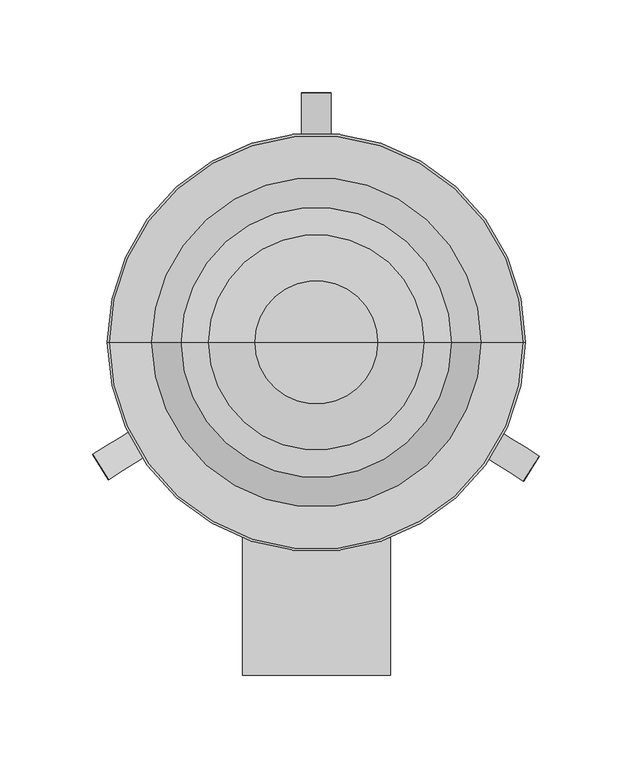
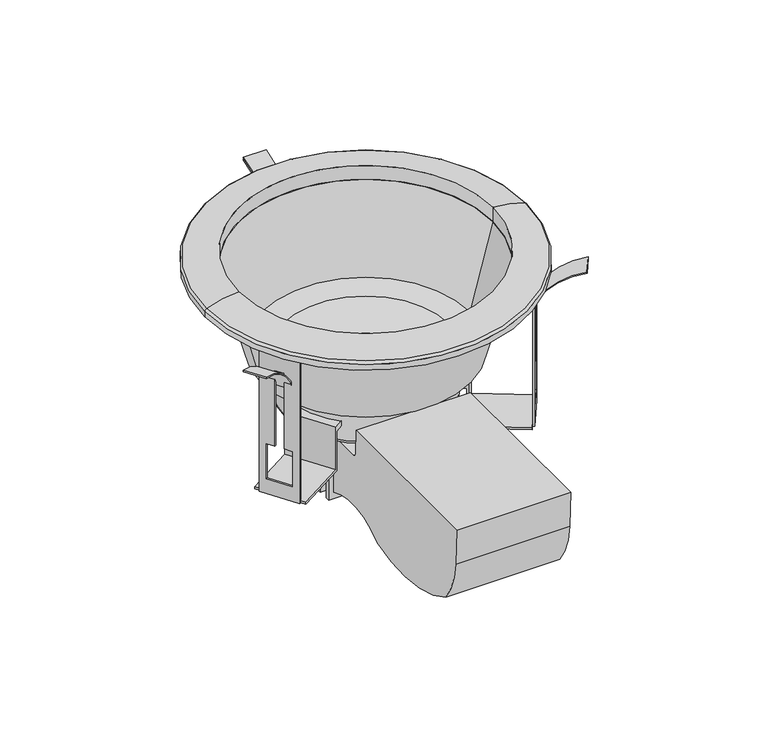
"""IFC4 building model written with IfcOpenShell, lengths in millimetres: light fixture geometry, Comtec LED : Comtec LED."""

from ifc_helpers import new_model, si_unit, point, frame, frame_2d, origin, place, context, project, spatial, polyline, circle_curve, ellipse_curve, trimmed, segment, composite_curve, outline, extrude, source, transform, mapped, element, save
from ifc_brep_helpers import plane_surface, cylinder_surface, revolved_surface, advanced_brep


def light_fixture_298a29b3(model_context):
    return source(origin(), model_context, "Body", "SolidModel", [
        extrude(outline(composite_curve([segment(trimmed(circle_curve(frame_2d((0.0, -5.0)), 5.0), [point((0.0, -10.0))], [point((0.0, 0.0))], False, "CARTESIAN"), True, "CONTINUOUS"), segment(trimmed(circle_curve(frame_2d((0.0, -5.0)), 5.0), [point((0.0, 0.0))], [point((0.0, -10.0))], False, "CARTESIAN"), True, "CONTINUOUS")], self_intersect=False)), frame((5.1438018, -74.0644061, -138.848699), z_axis=(0.0, -0.37460659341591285, 0.9271838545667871), x_axis=(0.0, -0.9271838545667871, -0.37460659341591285)), (0.0, 0.0, 1.0), 4.0851521),
        extrude(outline(polyline([(-40.0, 0.0), (0.0, 0.0), (0.0, -1.5), (-38.7064938, -1.5), (-38.7064938, -33.1009484), (-46.9554324, -33.1009484), (-46.9554324, -29.5168542), (-40.0, -29.5168542), (-40.0, 0.0)])), frame((79.1774025, -65.4227303, -111.2875682), z_axis=(0.5358760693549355, 0.8442966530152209, 0.0), x_axis=(0.8442966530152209, -0.5358760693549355, 0.0)), (0.0, 0.0, 1.0), 35.0),
        extrude(outline(composite_curve([segment(trimmed(circle_curve(frame_2d((0.0, 47.0)), 47.0), [point((16.0994137, 2.8433597))], [point((46.0994137, 37.8433597))], True, "CARTESIAN"), True, "CONTINUOUS"), segment(polyline([(46.0994137, 37.8433597), (47.0845011, 37.6476937)]), True, "CONTINUOUS"), segment(trimmed(circle_curve(frame_2d((-3.2793151, 49.8171151)), 51.8132107), [point((47.0845011, 37.6476937))], [point((16.4419544, 1.9038567))], False, "CARTESIAN"), True, "CONTINUOUS"), segment(polyline([(16.4419544, 1.9038567), (16.0994137, 2.8433597)]), True, "CONTINUOUS")], self_intersect=False)), frame((80.1789927, -54.8064716, -47.0326349), z_axis=(0.5358760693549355, 0.8442966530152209, 0.0), x_axis=(0.0, 0.0, 1.0)), (0.0, 0.0, 1.0), 16.0),
        extrude(outline(polyline([(0.0, 0.0), (0.0, -111.354347), (-27.9999999, -111.354347), (-27.9999999, 0.0), (0.0, 0.0)]), holes=[polyline([(-23.0, -11.0), (-23.0, -37.0), (-17.0, -37.0), (-17.0, -93.0), (-10.9999999, -93.0), (-10.9999999, -37.0), (-4.9999999, -37.0), (-4.9999999, -11.0), (-23.0, -11.0)])]), frame((97.0706546, -39.4704371, -111.2875682), z_axis=(-0.844296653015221, 0.5358760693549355, 0.0), x_axis=(0.5358760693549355, 0.844296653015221, 0.0)), (0.0, 0.0, 1.0), 1.2),
        extrude(outline(polyline([(40.0, 0.0), (40.0, -29.5168542), (46.9554324, -29.5168542), (46.9554324, -33.1009484), (38.7064938, -33.1009484), (38.7064938, -1.5), (0.0, -1.5), (0.0, 0.0), (40.0, 0.0)])), frame((-79.5698948, -64.8048004, -111.354347), z_axis=(-0.5299192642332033, 0.8480480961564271, 0.0), x_axis=(0.8480480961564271, 0.5299192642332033, 0.0)), (0.0, 0.0, 1.0), 35.0),
        extrude(outline(composite_curve([segment(polyline([(-16.0994137, 2.8433597), (-16.4419544, 1.9038568)]), True, "CONTINUOUS"), segment(trimmed(circle_curve(frame_2d((3.2793151, 49.8171151)), 51.8132107), [point((-16.4419544, 1.9038568))], [point((-47.0845011, 37.6476936))], False, "CARTESIAN"), True, "CONTINUOUS"), segment(polyline([(-47.0845011, 37.6476936), (-46.0994137, 37.8433596)]), True, "CONTINUOUS"), segment(trimmed(circle_curve(frame_2d((0.0, 47.0)), 47.0), [point((-46.0994137, 37.8433596))], [point((-16.0994137, 2.8433597))], True, "CARTESIAN"), True, "CONTINUOUS")], self_intersect=False)), frame((-80.4967258, -54.1817539, -47.0994137), z_axis=(-0.5299192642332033, 0.8480480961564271, 0.0), x_axis=(0.0, 0.0, -1.0)), (0.0, 0.0, 1.0), 16.0),
        extrude(outline(polyline([(0.0, 0.0), (0.0, -111.354347), (-28.0, -111.354347), (-28.0, 0.0), (0.0, 0.0)]), holes=[polyline([(-23.0, -11.0), (-23.0, -37.0), (-17.0, -37.0), (-17.0, -93.0), (-10.9999999, -93.0), (-10.9999999, -37.0), (-5.0, -37.0), (-5.0, -11.0), (-23.0, -11.0)])]), frame((-82.4422699, -62.4725352, -111.354347), z_axis=(0.8480480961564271, 0.5299192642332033, 0.0), x_axis=(0.5299192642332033, -0.8480480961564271, 0.0)), (0.0, 0.0, 1.0), 1.2),
        extrude(outline(polyline([(62.0, -112.854347), (62.0, -83.3374928), (55.0445676, -83.3374928), (55.0445676, -79.7533986), (63.2935062, -79.7533986), (63.2935062, -111.354347), (102.0, -111.354347), (102.0, -112.854347), (62.0, -112.854347)])), frame((-17.5, 0.0, 0.0), z_axis=(1.0, 0.0, 0.0), x_axis=(0.0, 1.0, 0.0)), (0.0, 0.0, 1.0), 35.0),
        extrude(outline(composite_curve([segment(polyline([(100.0, -32.5), (99.060497, -32.1574593)]), True, "CONTINUOUS"), segment(trimmed(circle_curve(frame_2d((146.9737554, -51.8787288)), 51.8132107), [point((99.060497, -32.1574593))], [point((134.8043339, -1.5149126))], False, "CARTESIAN"), True, "CONTINUOUS"), segment(polyline([(134.8043339, -1.5149126), (135.0, -2.5)]), True, "CONTINUOUS"), segment(trimmed(circle_curve(frame_2d((144.1566403, -48.5994137)), 47.0), [point((135.0, -2.5))], [point((100.0, -32.5))], True, "CARTESIAN"), True, "CONTINUOUS")], self_intersect=False)), frame((-8.0, 0.0, 0.0), z_axis=(1.0, 0.0, 0.0), x_axis=(0.0, 1.0, 0.0)), (0.0, 0.0, 1.0), 16.0),
        extrude(outline(polyline([(-112.854347, -14.0), (-112.854347, 14.0), (-1.5, 14.0), (-1.5, -14.0), (-112.854347, -14.0)]), holes=[polyline([(-101.854347, 9.0), (-101.854347, -9.0), (-75.854347, -9.0), (-75.854347, -3.0), (-19.854347, -3.0), (-19.854347, 3.0), (-75.854347, 3.0), (-75.854347, 9.0), (-101.854347, 9.0)])]), frame((0.0, 102.0, 0.0), z_axis=(0.0, 1.0, 0.0), x_axis=(0.0, 0.0, 1.0)), (0.0, 0.0, 1.0), 1.2),
        extrude(outline(polyline([(62.0, -111.354347), (62.0, -81.8374928), (55.0445676, -81.8374928), (55.0445676, -78.2533986), (63.2935062, -78.2533986), (63.2935062, -109.854347), (102.0, -109.854347), (102.0, -111.354347), (62.0, -111.354347)])), frame((-17.5, 0.0, 0.0), z_axis=(1.0, 0.0, 0.0), x_axis=(0.0, 1.0, 0.0)), (0.0, 0.0, 1.0), 35.0),
        extrude(outline(composite_curve([segment(polyline([(100.0, -31.0), (99.060497, -30.6574593)]), True, "CONTINUOUS"), segment(trimmed(circle_curve(frame_2d((146.9737554, -50.3787288)), 51.8132107), [point((99.060497, -30.6574593))], [point((134.8043339, -0.0149126))], False, "CARTESIAN"), True, "CONTINUOUS"), segment(polyline([(134.8043339, -0.0149126), (135.0, -1.0)]), True, "CONTINUOUS"), segment(trimmed(circle_curve(frame_2d((144.1566403, -47.0994137)), 47.0), [point((135.0, -1.0))], [point((100.0, -31.0))], True, "CARTESIAN"), True, "CONTINUOUS")], self_intersect=False)), frame((-8.0, 0.0, 0.0), z_axis=(1.0, 0.0, 0.0), x_axis=(0.0, 1.0, 0.0)), (0.0, 0.0, 1.0), 16.0),
        extrude(outline(polyline([(-111.354347, -14.0), (-111.354347, 14.0), (0.0, 14.0), (0.0, -14.0), (-111.354347, -14.0)]), holes=[polyline([(-100.354347, 9.0), (-100.354347, -9.0), (-74.354347, -9.0), (-74.354347, -3.0), (-18.354347, -3.0), (-18.354347, 3.0), (-74.354347, 3.0), (-74.354347, 9.0), (-100.354347, 9.0)])]), frame((0.0, 102.0, 0.0), z_axis=(0.0, 1.0, 0.0), x_axis=(0.0, 0.0, 1.0)), (0.0, 0.0, 1.0), 1.2),
        extrude(outline(polyline([(40.0, 19.0384684), (40.0, 15.7509368), (-40.0, 15.7509368), (-40.0, 19.0384684), (40.0, 19.0384684)])), frame((0.0, 0.0, -146.8386482), z_axis=(0.0, 0.0, 1.0), x_axis=(1.0, 0.0, 0.0)), (0.0, 0.0, 1.0), 51.4843013),
        extrude(outline(polyline([(40.0, 28.7596398), (40.0, 25.4721082), (-40.0, 25.4721082), (-40.0, 28.7596398), (40.0, 28.7596398)])), frame((0.0, 0.0, -146.8386482), z_axis=(0.0, 0.0, 1.0), x_axis=(1.0, 0.0, 0.0)), (0.0, 0.0, 1.0), 51.4843013),
        extrude(outline(polyline([(40.0, 9.0384684), (40.0, 5.7509368), (-40.0, 5.7509368), (-40.0, 9.0384684), (40.0, 9.0384684)])), frame((0.0, 0.0, -146.8386482), z_axis=(0.0, 0.0, 1.0), x_axis=(1.0, 0.0, 0.0)), (0.0, 0.0, 1.0), 51.4843013),
        extrude(outline(polyline([(40.0, -0.9615316), (40.0, -4.2490632), (-40.0, -4.2490632), (-40.0, -0.9615316), (40.0, -0.9615316)])), frame((0.0, 0.0, -146.8386482), z_axis=(0.0, 0.0, 1.0), x_axis=(1.0, 0.0, 0.0)), (0.0, 0.0, 1.0), 51.4843013),
        extrude(outline(polyline([(40.0, -10.9615316), (40.0, -14.2490632), (-40.0, -14.2490632), (-40.0, -10.9615316), (40.0, -10.9615316)])), frame((0.0, 0.0, -146.8386482), z_axis=(0.0, 0.0, 1.0), x_axis=(1.0, 0.0, 0.0)), (0.0, 0.0, 1.0), 51.4843013),
        extrude(outline(polyline([(40.0, -20.9615316), (40.0, -24.2490632), (-40.0, -24.2490632), (-40.0, -20.9615316), (40.0, -20.9615316)])), frame((0.0, 0.0, -146.8386482), z_axis=(0.0, 0.0, 1.0), x_axis=(1.0, 0.0, 0.0)), (0.0, 0.0, 1.0), 51.4843013),
        extrude(outline(composite_curve([segment(trimmed(circle_curve(frame_2d((-52.8820503, -181.5843221)), 49.6027163), [point((-30.1337454, -137.5054827))], [point((-83.3330628, -142.4286674))], True, "CARTESIAN"), True, "CONTINUOUS"), segment(trimmed(circle_curve(frame_2d((-114.1793145, -47.3233374)), 99.9825737), [point((-83.3330628, -142.4286674))], [point((-166.8151274, -132.3291386))], False, "CARTESIAN"), True, "CONTINUOUS"), segment(trimmed(circle_curve(frame_2d((-122.421054, -97.7152182)), 56.293492), [point((-166.8151274, -132.3291386))], [point((-178.6373977, -100.6613919))], False, "CARTESIAN"), True, "CONTINUOUS"), segment(polyline([(-178.6373977, -100.6613919), (-180.0, -74.6613919), (-57.9342962, -74.6613919), (-57.0643622, -92.3384524)]), True, "CONTINUOUS"), segment(trimmed(circle_curve(frame_2d((-53.8754494, -92.1815178)), 3.1927721), [point((-57.0643622, -92.3384524))], [point((-54.231748, -95.354347))], True, "CARTESIAN"), True, "CONTINUOUS"), segment(polyline([(-54.231748, -95.354347), (-30.5786709, -95.354347), (-30.1337454, -137.5054827)]), True, "CONTINUOUS")], self_intersect=False)), frame((-40.0, 0.0, 0.0), z_axis=(1.0, 0.0, 0.0), x_axis=(0.0, 1.0, 0.0)), (0.0, 0.0, 1.0), 80.0),
        advanced_brep(
        [(34.0875083, 0.0, -74.6613919), (-34.0875083, 0.0, -74.6613919), (0.0, 0.0, -74.6613919), (58.364397, 0.0, -65.825327), (-58.364397, 0.0, -65.825327), (57.0765187, 0.0, -92.2581804), (-57.0765187, 0.0, -92.2581804), (54.231748, 0.0, -95.354347), (-54.231748, 0.0, -95.354347), (0.0, 0.0, -95.354347)],
        [
            (0, 1, circle_curve(frame((0.0, 0.0, -74.6613919), z_axis=(0.0, 0.0, 1.0), x_axis=(-1.0, 0.0, 0.0)), 34.0875083)),
            (1, 2),
            (2, 0),
            (1, 0, circle_curve(frame((0.0, 0.0, -74.6613919), z_axis=(0.0, 0.0, 1.0), x_axis=(-1.0, 0.0, 0.0)), 34.0875083)),
            (3, 4, circle_curve(frame((0.0, 0.0, -65.825327), z_axis=(0.0, 0.0, 1.0), x_axis=(-1.0, 0.0, 0.0)), 58.364397)),
            (4, 1),
            (0, 3),
            (4, 3, circle_curve(frame((0.0, 0.0, -65.825327), z_axis=(0.0, 0.0, 1.0), x_axis=(-1.0, 0.0, 0.0)), 58.364397)),
            (5, 6, circle_curve(frame((0.0, 0.0, -92.2581804), z_axis=(0.0, 0.0, 1.0), x_axis=(-1.0, 0.0, 0.0)), 57.0765187)),
            (6, 4),
            (3, 5),
            (6, 5, circle_curve(frame((0.0, 0.0, -92.2581804), z_axis=(0.0, 0.0, 1.0), x_axis=(-1.0, 0.0, 0.0)), 57.0765187)),
            (7, 8, circle_curve(frame((0.0, 0.0, -95.354347), z_axis=(0.0, 0.0, 1.0), x_axis=(-1.0, 0.0, 0.0)), 54.231748)),
            (8, 6, circle_curve(frame((-53.7952436, 0.0, -92.098308), z_axis=(0.0, 1.0, 0.0), x_axis=(1.0, 0.0, 0.0)), 3.2851675)),
            (5, 7, circle_curve(frame((53.7952436, 0.0, -92.098308), z_axis=(0.0, 1.0, 0.0), x_axis=(-1.0, 0.0, 0.0)), 3.2851675)),
            (8, 7, circle_curve(frame((0.0, 0.0, -95.354347), z_axis=(0.0, 0.0, 1.0), x_axis=(-1.0, 0.0, 0.0)), 54.231748)),
            (9, 8),
            (7, 9),
        ],
        [
            plane_surface(frame((0.0, 0.0, -74.6613919), z_axis=(0.0, 0.0, 1.0), x_axis=(-1.0, 0.0, 0.0))),
            revolved_surface(polyline([(-34.0875083, 0.0, -74.6613919), (-58.364397, 0.0, -65.825327)]), (0.0, 0.0, -74.6613919), (0.0, 0.0, -1.0)),
            revolved_surface(polyline([(-58.364397, 0.0, -65.825327), (-57.0765187, 0.0, -92.2581804)]), (0.0, 0.0, -74.6613919), (0.0, 0.0, -1.0)),
            revolved_surface(trimmed(ellipse_curve(frame((-53.7952436, 0.0, -92.098308), z_axis=(0.0, -1.0, 0.0), x_axis=(1.0, 0.0, 0.0)), 3.2851675, 3.2851675), [point((-57.0765187, 0.0, -92.2581804))], [point((-54.231748, 0.0, -95.354347))], True, "CARTESIAN"), (0.0, 0.0, -74.6613919), (0.0, 0.0, -1.0)),
            plane_surface(frame((0.0, 0.0, -95.354347), z_axis=(0.0, 0.0, -1.0), x_axis=(-1.0, 0.0, 0.0))),
        ],
        [
            (0, [[1, 2, 3]]),
            (0, [[4, -3, -2]]),
            (1, [[5, 6, -1, 7]]),
            (1, [[8, -7, -4, -6]]),
            (2, [[9, 10, -5, 11]]),
            (2, [[12, -11, -8, -10]]),
            (3, [[13, 14, -9, 15]]),
            (3, [[16, -15, -12, -14]]),
            (4, [[17, -13, 18]]),
            (4, [[-18, -16, -17]]),
        ],
    ),
        advanced_brep(
        [(90.1862357, 0.0, 0.0), (-90.1862357, 0.0, 0.0), (-89.200061, 0.0, 0.0), (89.200061, 0.0, 0.0), (73.7547954, 0.0, -62.2040568), (-73.7547954, 0.0, -62.2040568), (58.364397, 0.0, -65.825327), (-58.364397, 0.0, -65.825327), (34.0875083, 0.0, -74.6613919), (-34.0875083, 0.0, -74.6613919), (31.9600186, 0.0, -74.6613919), (-31.9600186, 0.0, -74.6613919), (58.1353576, 0.0, -64.8519099), (-58.1353576, 0.0, -64.8519099), (73.0, 0.0, -61.354347), (-73.0, 0.0, -61.354347)],
        [
            (0, 1, circle_curve(frame((0.0, 0.0, 0.0), z_axis=(0.0, 0.0, 1.0), x_axis=(-1.0, 0.0, 0.0)), 90.1862357)),
            (1, 2),
            (2, 3, circle_curve(frame((0.0, 0.0, 0.0), z_axis=(0.0, 0.0, -1.0), x_axis=(-1.0, 0.0, 0.0)), 89.200061)),
            (3, 0),
            (1, 0, circle_curve(frame((0.0, 0.0, 0.0), z_axis=(0.0, 0.0, 1.0), x_axis=(-1.0, 0.0, 0.0)), 90.1862357)),
            (3, 2, circle_curve(frame((0.0, 0.0, 0.0), z_axis=(0.0, 0.0, -1.0), x_axis=(-1.0, 0.0, 0.0)), 89.200061)),
            (4, 5, circle_curve(frame((0.0, 0.0, -62.2040568), z_axis=(0.0, 0.0, 1.0), x_axis=(-1.0, 0.0, 0.0)), 73.7547954)),
            (5, 1, circle_curve(frame((255.3937078, 0.0, 58.0140256), z_axis=(0.0, 1.0, 0.0), x_axis=(1.0, 0.0, 0.0)), 350.4156454)),
            (0, 4, circle_curve(frame((-255.3937078, 0.0, 58.0140256), z_axis=(0.0, 1.0, 0.0), x_axis=(-1.0, 0.0, 0.0)), 350.4156454)),
            (5, 4, circle_curve(frame((0.0, 0.0, -62.2040568), z_axis=(0.0, 0.0, 1.0), x_axis=(-1.0, 0.0, 0.0)), 73.7547954)),
            (6, 7, circle_curve(frame((0.0, 0.0, -65.825327), z_axis=(0.0, 0.0, 1.0), x_axis=(-1.0, 0.0, 0.0)), 58.364397)),
            (7, 5, circle_curve(frame((103.7236835, 0.0, 657.5642469), z_axis=(0.0, 1.0, 0.0), x_axis=(1.0, 0.0, 0.0)), 741.3265282)),
            (4, 6, circle_curve(frame((-103.7236835, 0.0, 657.5642469), z_axis=(0.0, 1.0, 0.0), x_axis=(-1.0, 0.0, 0.0)), 741.3265282)),
            (7, 6, circle_curve(frame((0.0, 0.0, -65.825327), z_axis=(0.0, 0.0, 1.0), x_axis=(-1.0, 0.0, 0.0)), 58.364397)),
            (8, 9, circle_curve(frame((0.0, 0.0, -74.6613919), z_axis=(0.0, 0.0, 1.0), x_axis=(-1.0, 0.0, 0.0)), 34.0875083)),
            (9, 7),
            (6, 8),
            (9, 8, circle_curve(frame((0.0, 0.0, -74.6613919), z_axis=(0.0, 0.0, 1.0), x_axis=(-1.0, 0.0, 0.0)), 34.0875083)),
            (10, 11, circle_curve(frame((0.0, 0.0, -74.6613919), z_axis=(0.0, 0.0, 1.0), x_axis=(-1.0, 0.0, 0.0)), 31.9600186)),
            (11, 9),
            (8, 10),
            (11, 10, circle_curve(frame((0.0, 0.0, -74.6613919), z_axis=(0.0, 0.0, 1.0), x_axis=(-1.0, 0.0, 0.0)), 31.9600186)),
            (12, 13, circle_curve(frame((0.0, 0.0, -64.8519099), z_axis=(0.0, 0.0, 1.0), x_axis=(-1.0, 0.0, 0.0)), 58.1353576)),
            (13, 11),
            (10, 12),
            (13, 12, circle_curve(frame((0.0, 0.0, -64.8519099), z_axis=(0.0, 0.0, 1.0), x_axis=(-1.0, 0.0, 0.0)), 58.1353576)),
            (14, 15, circle_curve(frame((0.0, 0.0, -61.354347), z_axis=(0.0, 0.0, 1.0), x_axis=(-1.0, 0.0, 0.0)), 73.0)),
            (15, 13, circle_curve(frame((121.4027012, 0.0, 731.5209868), z_axis=(0.0, -1.0, 0.0), x_axis=(1.0, 0.0, 0.0)), 816.360034)),
            (12, 14, circle_curve(frame((-121.4027012, 0.0, 731.5209868), z_axis=(0.0, -1.0, 0.0), x_axis=(-1.0, 0.0, 0.0)), 816.360034)),
            (15, 14, circle_curve(frame((0.0, 0.0, -61.354347), z_axis=(0.0, 0.0, 1.0), x_axis=(-1.0, 0.0, 0.0)), 73.0)),
            (2, 15, circle_curve(frame((257.6495101, 0.0, 58.7665822), z_axis=(0.0, -1.0, 0.0), x_axis=(1.0, 0.0, 0.0)), 351.792746)),
            (14, 3, circle_curve(frame((-257.6495101, 0.0, 58.7665822), z_axis=(0.0, -1.0, 0.0), x_axis=(-1.0, 0.0, 0.0)), 351.792746)),
        ],
        [
            plane_surface(frame((0.0, 0.0, 0.0), z_axis=(0.0, 0.0, 1.0), x_axis=(-1.0, 0.0, 0.0))),
            revolved_surface(trimmed(ellipse_curve(frame((255.3937078, 0.0, 58.0140256), z_axis=(0.0, -1.0, 0.0), x_axis=(1.0, 0.0, 0.0)), 350.4156454, 350.4156454), [point((-90.1862357, 0.0, 0.0))], [point((-73.7547954, 0.0, -62.2040568))], True, "CARTESIAN"), (0.0, 0.0, -70.2433595), (0.0, 0.0, -1.0)),
            revolved_surface(trimmed(ellipse_curve(frame((103.7236835, 0.0, 657.5642469), z_axis=(0.0, -1.0, 0.0), x_axis=(1.0, 0.0, 0.0)), 741.3265282, 741.3265282), [point((-73.7547954, 0.0, -62.2040568))], [point((-58.364397, 0.0, -65.825327))], True, "CARTESIAN"), (0.0, 0.0, -70.2433595), (0.0, 0.0, -1.0)),
            revolved_surface(polyline([(-58.364397, 0.0, -65.825327), (-34.0875083, 0.0, -74.6613919)]), (0.0, 0.0, -70.2433595), (0.0, 0.0, -1.0)),
            plane_surface(frame((0.0, 0.0, -74.6613919), z_axis=(0.0, 0.0, -1.0), x_axis=(-1.0, 0.0, 0.0))),
            revolved_surface(polyline([(-31.9600186, 0.0, -74.6613919), (-58.1353576, 0.0, -64.8519099)]), (0.0, 0.0, -70.2433595), (0.0, 0.0, -1.0)),
            revolved_surface(trimmed(ellipse_curve(frame((121.4027012, 0.0, 731.5209868), z_axis=(0.0, 1.0, 0.0), x_axis=(1.0, 0.0, 0.0)), 816.360034, 816.360034), [point((-58.1353576, 0.0, -64.8519099))], [point((-73.0, 0.0, -61.354347))], True, "CARTESIAN"), (0.0, 0.0, -70.2433595), (0.0, 0.0, -1.0)),
            revolved_surface(trimmed(ellipse_curve(frame((257.6495101, 0.0, 58.7665822), z_axis=(0.0, 1.0, 0.0), x_axis=(1.0, 0.0, 0.0)), 351.792746, 351.792746), [point((-73.0, 0.0, -61.354347))], [point((-89.200061, 0.0, 0.0))], True, "CARTESIAN"), (0.0, 0.0, -70.2433595), (0.0, 0.0, -1.0)),
        ],
        [
            (0, [[1, 2, 3, 4]]),
            (0, [[5, -4, 6, -2]]),
            (1, [[7, 8, -1, 9]]),
            (1, [[10, -9, -5, -8]]),
            (2, [[11, 12, -7, 13]]),
            (2, [[14, -13, -10, -12]]),
            (3, [[15, 16, -11, 17]]),
            (3, [[18, -17, -14, -16]]),
            (4, [[19, 20, -15, 21]]),
            (4, [[22, -21, -18, -20]]),
            (5, [[23, 24, -19, 25]]),
            (5, [[26, -25, -22, -24]]),
            (6, [[27, 28, -23, 29]]),
            (6, [[30, -29, -26, -28]]),
            (7, [[-3, 31, -27, 32]]),
            (7, [[-6, -32, -30, -31]]),
        ],
    ),
        advanced_brep(
        [(89.200061, 0.0, 10.5), (-89.200061, 0.0, 10.5), (-89.200061, 0.0, 0.0), (89.200061, 0.0, 0.0), (111.7760165, 0.0, 6.0620456), (-111.7760165, 0.0, 6.0620456), (113.0, 0.0, 4.2474155), (-113.0, 0.0, 4.2474155), (113.0, 0.0, 0.0), (-113.0, 0.0, 0.0)],
        [
            (0, 1, circle_curve(frame((0.0, 0.0, 10.5), z_axis=(0.0, 0.0, 1.0), x_axis=(-1.0, 0.0, 0.0)), 89.200061)),
            (1, 2),
            (2, 3, circle_curve(frame((0.0, 0.0, 0.0), z_axis=(0.0, 0.0, -1.0), x_axis=(-1.0, 0.0, 0.0)), 89.200061)),
            (3, 0),
            (1, 0, circle_curve(frame((0.0, 0.0, 10.5), z_axis=(0.0, 0.0, 1.0), x_axis=(-1.0, 0.0, 0.0)), 89.200061)),
            (3, 2, circle_curve(frame((0.0, 0.0, 0.0), z_axis=(0.0, 0.0, -1.0), x_axis=(-1.0, 0.0, 0.0)), 89.200061)),
            (4, 5, circle_curve(frame((0.0, 0.0, 6.0620456), z_axis=(0.0, 0.0, 1.0), x_axis=(-1.0, 0.0, 0.0)), 111.7760165)),
            (5, 1, circle_curve(frame((-88.9419081, 0.0, -50.4543561), z_axis=(0.0, 1.0, 0.0), x_axis=(1.0, 0.0, 0.0)), 60.9549028)),
            (0, 4, circle_curve(frame((88.9419081, 0.0, -50.4543561), z_axis=(0.0, 1.0, 0.0), x_axis=(-1.0, 0.0, 0.0)), 60.9549028)),
            (5, 4, circle_curve(frame((0.0, 0.0, 6.0620456), z_axis=(0.0, 0.0, 1.0), x_axis=(-1.0, 0.0, 0.0)), 111.7760165)),
            (6, 7, circle_curve(frame((0.0, 0.0, 4.2474155), z_axis=(0.0, 0.0, 1.0), x_axis=(-1.0, 0.0, 0.0)), 113.0)),
            (7, 5, circle_curve(frame((-111.0428584, 0.0, 4.2474155), z_axis=(0.0, 1.0, 0.0), x_axis=(1.0, 0.0, 0.0)), 1.9571416)),
            (4, 6, circle_curve(frame((111.0428584, 0.0, 4.2474155), z_axis=(0.0, 1.0, 0.0), x_axis=(-1.0, 0.0, 0.0)), 1.9571416)),
            (7, 6, circle_curve(frame((0.0, 0.0, 4.2474155), z_axis=(0.0, 0.0, 1.0), x_axis=(-1.0, 0.0, 0.0)), 113.0)),
            (8, 9, circle_curve(frame((0.0, 0.0, 0.0), z_axis=(0.0, 0.0, 1.0), x_axis=(-1.0, 0.0, 0.0)), 113.0)),
            (9, 7),
            (6, 8),
            (9, 8, circle_curve(frame((0.0, 0.0, 0.0), z_axis=(0.0, 0.0, 1.0), x_axis=(-1.0, 0.0, 0.0)), 113.0)),
            (2, 9),
            (8, 3),
        ],
        [
            revolved_surface(polyline([(-89.200061, 0.0, 0.0), (-89.200061, 0.0, 10.5)]), (0.0, 0.0, 5.1342775), (0.0, 0.0, -1.0)),
            revolved_surface(trimmed(ellipse_curve(frame((-88.9419081, 0.0, -50.4543561), z_axis=(0.0, -1.0, 0.0), x_axis=(1.0, 0.0, 0.0)), 60.9549028, 60.9549028), [point((-89.200061, 0.0, 10.5))], [point((-111.7760165, 0.0, 6.0620456))], True, "CARTESIAN"), (0.0, 0.0, 5.1342775), (0.0, 0.0, -1.0)),
            revolved_surface(trimmed(ellipse_curve(frame((-111.0428584, 0.0, 4.2474155), z_axis=(0.0, -1.0, 0.0), x_axis=(1.0, 0.0, 0.0)), 1.9571416, 1.9571416), [point((-111.7760165, 0.0, 6.0620456))], [point((-113.0, 0.0, 4.2474155))], True, "CARTESIAN"), (0.0, 0.0, 5.1342775), (0.0, 0.0, -1.0)),
            cylinder_surface(frame((0.0, 0.0, 5.1342775), z_axis=(0.0, 0.0, -1.0), x_axis=(-1.0, 0.0, 0.0)), 113.0),
            plane_surface(frame((0.0, 0.0, 0.0), z_axis=(0.0, 0.0, -1.0), x_axis=(-1.0, 0.0, 0.0))),
        ],
        [
            (0, [[1, 2, 3, 4]]),
            (0, [[5, -4, 6, -2]]),
            (1, [[7, 8, -1, 9]]),
            (1, [[10, -9, -5, -8]]),
            (2, [[11, 12, -7, 13]]),
            (2, [[14, -13, -10, -12]]),
            (3, [[15, 16, -11, 17]]),
            (3, [[18, -17, -14, -16]]),
            (4, [[-3, 19, -15, 20]]),
            (4, [[-6, -20, -18, -19]]),
        ],
    ),
    ])


if __name__ == "__main__":
    model = new_model("IFC4")
    model_context = context("Model", 3, world=origin())
    ifc_project = project(units=[si_unit("LENGTHUNIT", "METRE", prefix="MILLI")], contexts=[model_context])
    site = spatial("IfcSite", under=ifc_project)
    building = spatial("IfcBuilding", under=site)
    placement = place(None, origin())
    light_fixture_shape = light_fixture_298a29b3(model_context)
    element("IfcLightFixture", 1, ObjectType="Comtec LED : Comtec LED", at=placement, inside=building, context=model_context, shape_type="MappedRepresentation", body=[
        mapped(light_fixture_shape, transform((0.0, 0.0, 0.0), x_axis=(1.0, 0.0, 0.0), y_axis=(0.0, 1.0, 0.0), z_axis=(0.0, 0.0, 1.0))),
    ])
    save(model, "model.ifc")
